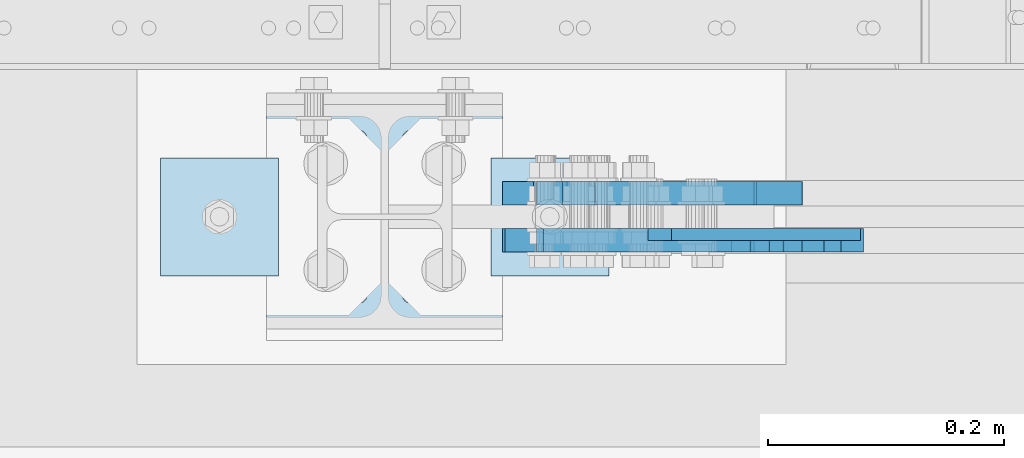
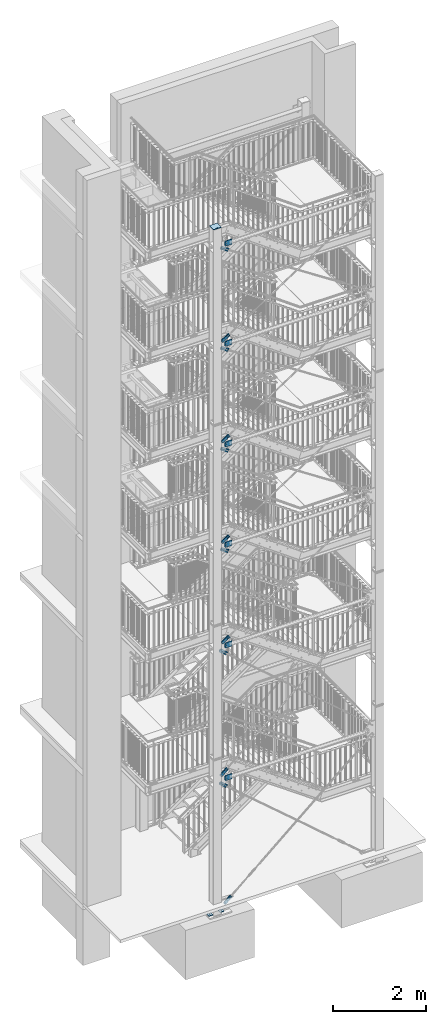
# One storey, part 148 of 817: 21 plates, 54 openings.
"""IFC2X3 building model written with IfcOpenShell, lengths in millimetres."""

import ifcopenshell
import ifcopenshell.guid

model = None  # the IFC model being written
_history = None  # IfcOwnerHistory: only IFC2X3 demands one
_inside = {}  # id of a spatial element -> (the spatial element, [elements in it])
_under = {}  # id of a project, library or spatial element -> (it, [spatial elements below it])
_declared = {}  # id of a project -> (the project, [libraries it declares])
_typed = {}  # id of a type object -> (the type object, [elements of that type])
_made_of = {}  # id of a material, layer set ... -> (it, [elements and type objects made of it])


def new_model(schema):
    """Start an empty IFC model of exactly this schema.

    Asked for "IFC4X3", IfcOpenShell would pick the latest addendum, in which some entities
    have other attributes; the version numbers below select the first issue.
    IFC2X3 requires an IfcOwnerHistory on every rooted entity: one is made here for all.
    """
    global model, _history
    if schema == "IFC4X3":
        model = ifcopenshell.file(schema_version=(4, 3, 0, 0))
    else:
        model = ifcopenshell.file(schema=schema)
    _inside.clear()
    _under.clear()
    _declared.clear()
    _typed.clear()
    _made_of.clear()
    _history = None
    if model.schema == "IFC2X3":
        org = make("IfcOrganization", Name="unknown")
        user = make(
            "IfcPersonAndOrganization",
            ThePerson=make("IfcPerson", FamilyName="unknown"),
            TheOrganization=org,
        )
        app = make(
            "IfcApplication",
            ApplicationDeveloper=org,
            Version="unknown",
            ApplicationFullName="unknown",
            ApplicationIdentifier="unknown",
        )
        _history = make(
            "IfcOwnerHistory",
            OwningUser=user,
            OwningApplication=app,
            ChangeAction="ADDED",
            CreationDate=0,
        )
    return model


def make(cls, **values):
    """One entity of the class cls with the attributes given. An attribute that is None is left unset."""
    return model.create_entity(
        cls, **{name: value for name, value in values.items() if value is not None}
    )


def entity(cls, *values):
    """Any entity or typed value of the class cls, its attributes in the order of the schema. None: left unset."""
    e = model.create_entity(cls)
    for i, value in enumerate(values):
        if value is not None:
            e[i] = value
    return e


def rooted(cls, **values):
    """An entity with a GlobalId (a new one), such as an element, a storey or a relation."""
    return make(cls, GlobalId=ifcopenshell.guid.new(), OwnerHistory=_history, **values)


def si_unit(unit_type, name, prefix=None):
    """IfcSIUnit, for example si_unit("LENGTHUNIT", "METRE", prefix="MILLI")."""
    return make("IfcSIUnit", UnitType=unit_type, Prefix=prefix, Name=name)


def converted_unit(unit_type, name, factor, base, dimensions=None, offset=None):
    """IfcConversionBasedUnit, such as the inch: factor (a typed value) times the base unit."""
    return make(
        "IfcConversionBasedUnit"
        if offset is None
        else "IfcConversionBasedUnitWithOffset",
        ConversionOffset=offset,
        Dimensions=None
        if dimensions is None
        else entity("IfcDimensionalExponents", *dimensions),
        UnitType=unit_type,
        Name=name,
        ConversionFactor=make(
            "IfcMeasureWithUnit", ValueComponent=factor, UnitComponent=base
        ),
    )


def assignment(units):
    """IfcUnitAssignment: the units of a project."""
    return None if units is None else make("IfcUnitAssignment", Units=units)


def point(xyz):
    """IfcCartesianPoint."""
    return None if xyz is None else make("IfcCartesianPoint", Coordinates=xyz)


def direction(xyz):
    """IfcDirection."""
    return None if xyz is None else make("IfcDirection", DirectionRatios=xyz)


def frame(location, z_axis=None, x_axis=None):
    """IfcAxis2Placement3D, a coordinate frame: its origin and axes. An axis left out is left unset."""
    return make(
        "IfcAxis2Placement3D",
        Location=point(location),
        Axis=direction(z_axis),
        RefDirection=direction(x_axis),
    )


def frame_2d(location, x_axis=None):
    """IfcAxis2Placement2D, a coordinate frame in the plane: its origin and x axis."""
    return make(
        "IfcAxis2Placement2D", Location=point(location), RefDirection=direction(x_axis)
    )


def origin():
    """The frame at (0, 0, 0) with its axes left unset."""
    return frame((0.0, 0.0, 0.0))


def origin_with_axes():
    """The frame at (0, 0, 0) with the z axis (0, 0, 1) and the x axis (1, 0, 0) written out."""
    return frame((0.0, 0.0, 0.0), z_axis=(0.0, 0.0, 1.0), x_axis=(1.0, 0.0, 0.0))


def origin_2d_with_axis():
    """The frame at (0, 0) in the plane with the x axis (1, 0) written out."""
    return frame_2d((0.0, 0.0), x_axis=(1.0, 0.0))


def place(relative_to, where):
    """IfcLocalPlacement: puts the frame where relative to a parent placement (None: the world)."""
    return make(
        "IfcLocalPlacement", PlacementRelTo=relative_to, RelativePlacement=where
    )


def context(
    kind, dimensions, precision=None, world=None, true_north=None, identifier=None
):
    """IfcGeometricRepresentationContext, for example the 3D "Model" context."""
    return make(
        "IfcGeometricRepresentationContext",
        ContextIdentifier=identifier,
        ContextType=kind,
        CoordinateSpaceDimension=dimensions,
        Precision=precision,
        WorldCoordinateSystem=world,
        TrueNorth=true_north,
    )


def project(units=None, contexts=None):
    """IfcProject with its units and contexts."""
    return rooted(
        "IfcProject",
        Name="project",
        RepresentationContexts=contexts,
        UnitsInContext=assignment(units),
    )


def spatial(cls, under=None, at=None, **own):
    """A site, building, storey or space (cls), placed at a placement, below another one or the project."""
    s = rooted(cls, ObjectPlacement=at, **own)
    if under is not None:
        _under.setdefault(under.id(), (under, []))[1].append(s)
    return s


def polyline(points):
    """IfcPolyline through the points."""
    return make("IfcPolyline", Points=[point(p) for p in points])


def profile(cls, at=None, kind="AREA", **sizes):
    """A parametric profile (cls). Its sizes go by their IFC names, for example OverallWidth=200.0."""
    return make(cls, ProfileType=kind, Position=at, **sizes)


def circle(**sizes):
    """IfcCircleProfileDef."""
    return profile("IfcCircleProfileDef", **sizes)


def outline(outer, holes=None, kind="AREA"):
    """IfcArbitraryClosedProfileDef: a profile drawn as a closed curve; with holes, ...WithVoids."""
    if holes is None:
        return make("IfcArbitraryClosedProfileDef", ProfileType=kind, OuterCurve=outer)
    return make(
        "IfcArbitraryProfileDefWithVoids",
        ProfileType=kind,
        OuterCurve=outer,
        InnerCurves=holes,
    )


def extrude(swept, where, along, depth):
    """IfcExtrudedAreaSolid: the profile swept, set in the frame where, extruded along a direction by depth."""
    return make(
        "IfcExtrudedAreaSolid",
        SweptArea=swept,
        Position=where,
        ExtrudedDirection=direction(along),
        Depth=depth,
    )


def shape(context_of_items, identifier, shape_type, items):
    """IfcShapeRepresentation: the items that make up one representation, for example the "Body"."""
    return make(
        "IfcShapeRepresentation",
        ContextOfItems=context_of_items,
        RepresentationIdentifier=identifier,
        RepresentationType=shape_type,
        Items=items,
    )


def material(Name=None, Category=None):
    """IfcMaterial."""
    return make("IfcMaterial", Name=Name, Category=Category)


def layer(
    of_material, thickness, ventilated=None, Name=None, Category=None, Priority=None
):
    """IfcMaterialLayer: one layer of a wall or slab, of a material (None: an air gap)."""
    return make(
        "IfcMaterialLayer",
        Material=of_material,
        LayerThickness=thickness,
        IsVentilated=ventilated,
        Name=Name,
        Category=Category,
        Priority=Priority,
    )


def layer_set(layers, Name=None):
    """IfcMaterialLayerSet."""
    return make("IfcMaterialLayerSet", MaterialLayers=layers, LayerSetName=Name)


def made_of(thing, what):
    """Note that an element or type object is made of a material, layer set ...; save() writes the relation."""
    if what is not None:
        _made_of.setdefault(what.id(), (what, []))[1].append(thing)
    return thing


def element(
    cls,
    number,
    at=None,
    inside=None,
    cuts=None,
    type_object=None,
    material=None,
    context=None,
    identifier="Body",
    shape_type=None,
    held_by="IfcProductDefinitionShape",
    body=None,
    shapes=None,
    **own,
):
    """One element of the class cls, such as IfcWall. Its Tag is "e" and its number.

    at: its placement. inside: the storey or other place that contains it. cuts: it is an
    opening in that element (IfcRelVoidsElement). A single representation is given by context,
    identifier, shape_type and body (its items); several are given by shapes. held_by: the class
    of the entity that holds the representations. save() writes the other relations.
    """
    e = rooted(cls, Tag="e%d" % number, ObjectPlacement=at, **own)
    if body is not None:
        shapes = [shape(context, identifier, shape_type, body)]
    if shapes is not None:
        e.Representation = make(held_by, Representations=shapes)
    if inside is not None:
        _inside.setdefault(inside.id(), (inside, []))[1].append(e)
    if cuts is not None:
        rooted(
            "IfcRelVoidsElement", RelatingBuildingElement=cuts, RelatedOpeningElement=e
        )
    if type_object is not None:
        _typed.setdefault(type_object.id(), (type_object, []))[1].append(e)
    return made_of(e, material)


def aggregate(whole, parts):
    """IfcRelAggregates: a whole, such as a stair, and the parts it consists of."""
    return rooted("IfcRelAggregates", RelatingObject=whole, RelatedObjects=parts)


def save(model, path):
    """Write the relations noted so far, then the file.

    IfcRelAggregates (storeys below a building ...), IfcRelContainedInSpatialStructure (elements
    in a storey), IfcRelDefinesByType, IfcRelAssociatesMaterial and IfcRelDeclares: one each for
    every whole, place, type object, material and project.
    """
    for whole, parts in _under.values():
        aggregate(whole, parts)
    for where, things in _inside.values():
        rooted(
            "IfcRelContainedInSpatialStructure",
            RelatedElements=things,
            RelatingStructure=where,
        )
    for kind, things in _typed.values():
        rooted("IfcRelDefinesByType", RelatedObjects=things, RelatingType=kind)
    for what, things in _made_of.values():
        rooted("IfcRelAssociatesMaterial", RelatedObjects=things, RelatingMaterial=what)
    for by, libraries in _declared.values():
        rooted("IfcRelDeclares", RelatingContext=by, RelatedDefinitions=libraries)
    model.write(path)


model = new_model("IFC2X3")

# Units and contexts
model_context = context("Model", 3, precision=1e-09, world=origin_with_axes())
ifc_project = project(units=[si_unit("LENGTHUNIT", "METRE", prefix="MILLI"), si_unit("AREAUNIT", "SQUARE_METRE"), si_unit("VOLUMEUNIT", "CUBIC_METRE"), converted_unit("PLANEANGLEUNIT", "DEGREE", entity("IfcPlaneAngleMeasure", 0.01745329), si_unit("PLANEANGLEUNIT", "RADIAN"), dimensions=[0, 0, 0, 0, 0, 0, 0])], contexts=[model_context])

# Site, building, storey
site_placement = place(None, origin_with_axes())
site = spatial("IfcSite", under=ifc_project, at=site_placement, Name="Cnopf'sche Kinderklinik", CompositionType="ELEMENT")
building_placement = place(site_placement, origin_with_axes())
building = spatial("IfcBuilding", under=site, at=building_placement, Name="Struktur 1", CompositionType="ELEMENT")
storey_placement = place(building_placement, origin_with_axes())
storey = spatial("IfcBuildingStorey", under=building, at=storey_placement, Name="Default Storey", CompositionType="ELEMENT", Elevation=0.0)

# Plate, opening
ifc_material = material(Name="S235JR")
ifc_layer_1 = layer(ifc_material, 12.0)
ifc_layer_set_1 = layer_set([ifc_layer_1], Name="S235JR")
plate_1_placement = place(None, frame((4716.713402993, 4366.736971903, 60.0), z_axis=(0.0, 0.0, 1.0), x_axis=(1.0, 0.0, 0.0)))
plate_1 = element("IfcPlate", 1, at=plate_1_placement, inside=storey, material=ifc_layer_set_1, Name="-", ObjectType="-", context=model_context, shape_type="SweptSolid", body=[
    extrude(outline(polyline([(-50.0, -50.0), (50.0, -50.0), (50.0, 50.0), (-50.0, 50.0), (-50.0, -50.0)])), origin_with_axes(), (0.0, 0.0, 1.0), 12.0),
])
opening_1_placement = place(plate_1_placement, frame((1e-09, 1e-09, -0.5), z_axis=(0.0, 0.0, 1.0), x_axis=(1.0, 0.0, 0.0)))
element("IfcOpeningElement", 2, at=opening_1_placement, cuts=plate_1, ObjectType="Opening", context=model_context, shape_type="SweptSolid", body=[
    extrude(circle(Radius=9.001, at=origin_2d_with_axis()), origin(), (0.0, 0.0, 1.0), 13.0),
])

plate_2_placement = place(None, frame((4996.713402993, 4366.736971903, 60.0), z_axis=(0.0, 0.0, 1.0), x_axis=(1.0, 0.0, 0.0)))
plate_2 = element("IfcPlate", 3, at=plate_2_placement, inside=storey, material=ifc_layer_set_1, Name="-", ObjectType="-", context=model_context, shape_type="SweptSolid", body=[
    extrude(outline(polyline([(-50.0, -50.0), (50.0, -50.0), (50.0, 50.0), (-50.0, 50.0), (-50.0, -50.0)])), origin_with_axes(), (0.0, 0.0, 1.0), 12.0),
])
opening_2_placement = place(plate_2_placement, frame((1e-09, 1e-09, -0.5), z_axis=(0.0, 0.0, 1.0), x_axis=(1.0, 0.0, 0.0)))
element("IfcOpeningElement", 4, at=opening_2_placement, cuts=plate_2, ObjectType="Opening", context=model_context, shape_type="SweptSolid", body=[
    extrude(circle(Radius=9.001, at=origin_2d_with_axis()), origin(), (0.0, 0.0, 1.0), 13.0),
])

# Plate, openings
ifc_layer_2 = layer(ifc_material, 10.0)
ifc_layer_set_2 = layer_set([ifc_layer_2], Name="S235JR")
plate_3_placement = place(None, frame((4856.713402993, 4366.736971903, 18013.999999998), z_axis=(0.0, 0.0, 1.0), x_axis=(1.0, 0.0, 0.0)))
plate_3 = element("IfcPlate", 5, at=plate_3_placement, inside=storey, material=ifc_layer_set_2, Name="-", ObjectType="-", context=model_context, shape_type="SweptSolid", body=[
    extrude(outline(polyline([(-100.0, -90.0), (100.0, -90.0), (100.0, 90.0), (-100.0, 90.0), (-100.0, -90.0)])), origin_with_axes(), (0.0, 0.0, 1.0), 10.0),
])
opening_3_placement = place(plate_3_placement, frame((21.25, 67.0, 10.5), z_axis=(0.0, 0.0, -1.0), x_axis=(0.0, 1.0, 0.0)))
element("IfcOpeningElement", 6, at=opening_3_placement, cuts=plate_3, ObjectType="Opening", context=model_context, shape_type="SweptSolid", body=[
    extrude(circle(Radius=6.001, at=origin_2d_with_axis()), origin(), (0.0, 0.0, 1.0), 11.0),
])
opening_4_placement = place(plate_3_placement, frame((21.25, -67.0, 10.5), z_axis=(0.0, 0.0, -1.0), x_axis=(0.0, 1.0, 0.0)))
element("IfcOpeningElement", 7, at=opening_4_placement, cuts=plate_3, ObjectType="Opening", context=model_context, shape_type="SweptSolid", body=[
    extrude(circle(Radius=6.001, at=origin_2d_with_axis()), origin(), (0.0, 0.0, 1.0), 11.0),
])
opening_5_placement = place(plate_3_placement, frame((-21.25, -67.0, 10.5), z_axis=(0.0, 0.0, -1.0), x_axis=(0.0, 1.0, 0.0)))
element("IfcOpeningElement", 8, at=opening_5_placement, cuts=plate_3, ObjectType="Opening", context=model_context, shape_type="SweptSolid", body=[
    extrude(circle(Radius=6.001, at=origin_2d_with_axis()), origin(), (0.0, 0.0, 1.0), 11.0),
])
opening_6_placement = place(plate_3_placement, frame((-21.25, 67.0, 10.5), z_axis=(0.0, 0.0, -1.0), x_axis=(0.0, 1.0, 0.0)))
element("IfcOpeningElement", 9, at=opening_6_placement, cuts=plate_3, ObjectType="Opening", context=model_context, shape_type="SweptSolid", body=[
    extrude(circle(Radius=6.001, at=origin_2d_with_axis()), origin(), (0.0, 0.0, 1.0), 11.0),
])

ifc_layer_3 = layer(ifc_material, 20.0)
ifc_layer_set_3 = layer_set([ifc_layer_3], Name="S235JR")
plate_4_placement = place(None, frame((5229.229944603, 4356.736971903, 395.19448655), z_axis=(0.0, -1.0, 0.0), x_axis=(-0.652408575, 0.0, 0.757867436)))
plate_4 = element("IfcPlate", 10, at=plate_4_placement, inside=storey, material=ifc_layer_set_3, Name="-", ObjectType="-", context=model_context, shape_type="SweptSolid", body=[
    extrude(outline(polyline([(0.0, 0.0), (29.0, 0.0), (29.0, 210.0), (9.0, 230.0), (-31.0, 230.0), (-51.0, 210.0), (-51.0, 0.0), (-22.0, 0.0), (-22.0, 80.0), (0.0, 80.0), (0.0, 0.0)])), origin_with_axes(), (0.0, 0.0, 1.0), 20.0),
])
opening_7_placement = place(plate_4_placement, frame((-11.0, 170.0, -0.5), z_axis=(0.0, 0.0, 1.0), x_axis=(0.0, -1.0, 0.0)))
element("IfcOpeningElement", 11, at=opening_7_placement, cuts=plate_4, ObjectType="Opening", context=model_context, shape_type="SweptSolid", body=[
    extrude(circle(Radius=9.001, at=frame_2d((30.0, 0.0), x_axis=(1.0, 0.0))), origin(), (0.0, 0.0, 1.0), 21.0),
])
opening_8_placement = place(plate_4_placement, frame((-11.0, 170.0, -0.5), z_axis=(0.0, 0.0, 1.0), x_axis=(0.0, -1.0, 0.0)))
element("IfcOpeningElement", 12, at=opening_8_placement, cuts=plate_4, ObjectType="Opening", context=model_context, shape_type="SweptSolid", body=[
    extrude(circle(Radius=9.001, at=frame_2d((-30.0, 0.0), x_axis=(1.0, 0.0))), origin(), (0.0, 0.0, 1.0), 21.0),
])

plate_5_placement = place(None, frame((5182.473395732, 4356.736971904, 7211.973311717), z_axis=(0.0, -1.0, 0.0), x_axis=(-0.548720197, 0.0, 0.836006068)))
plate_5 = element("IfcPlate", 13, at=plate_5_placement, inside=storey, material=ifc_layer_set_3, Name="-", ObjectType="-", context=model_context, shape_type="SweptSolid", body=[
    extrude(outline(polyline([(0.0, 0.0), (29.0, 0.0), (29.0, 210.0), (9.0, 230.0), (-31.0, 230.0), (-51.0, 210.0), (-51.0, 0.0), (-22.0, 0.0), (-22.0, 80.0), (0.0, 80.0), (0.0, 0.0)])), origin_with_axes(), (0.0, 0.0, 1.0), 20.0),
])
opening_9_placement = place(plate_5_placement, frame((-11.0, 170.0, -0.5), z_axis=(0.0, 0.0, 1.0), x_axis=(0.0, -1.0, 0.0)))
element("IfcOpeningElement", 14, at=opening_9_placement, cuts=plate_5, ObjectType="Opening", context=model_context, shape_type="SweptSolid", body=[
    extrude(circle(Radius=9.001, at=frame_2d((30.0, 0.0), x_axis=(1.0, 0.0))), origin(), (0.0, 0.0, 1.0), 21.0),
])
opening_10_placement = place(plate_5_placement, frame((-11.0, 170.0, -0.5), z_axis=(0.0, 0.0, 1.0), x_axis=(0.0, -1.0, 0.0)))
element("IfcOpeningElement", 15, at=opening_10_placement, cuts=plate_5, ObjectType="Opening", context=model_context, shape_type="SweptSolid", body=[
    extrude(circle(Radius=9.001, at=frame_2d((-30.0, 0.0), x_axis=(1.0, 0.0))), origin(), (0.0, 0.0, 1.0), 21.0),
])

plate_6_placement = place(None, frame((5136.237715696, 4356.736971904, 3768.643811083), z_axis=(0.0, -1.0, 0.0), x_axis=(-0.654679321, 0.0, 0.755906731)))
plate_6 = element("IfcPlate", 16, at=plate_6_placement, inside=storey, material=ifc_layer_set_3, Name="-", ObjectType="-", context=model_context, shape_type="SweptSolid", body=[
    extrude(outline(polyline([(0.0, 0.0), (29.0, 0.0), (29.0, 210.0), (9.0, 230.0), (-31.0, 230.0), (-51.0, 210.0), (-51.0, 0.0), (-22.0, 0.0), (-22.0, 80.0), (0.0, 80.0), (0.0, 0.0)])), origin_with_axes(), (0.0, 0.0, 1.0), 20.0),
])
opening_11_placement = place(plate_6_placement, frame((-11.0, 170.0, -0.5), z_axis=(0.0, 0.0, 1.0), x_axis=(0.0, -1.0, 0.0)))
element("IfcOpeningElement", 17, at=opening_11_placement, cuts=plate_6, ObjectType="Opening", context=model_context, shape_type="SweptSolid", body=[
    extrude(circle(Radius=9.001, at=frame_2d((30.0, 0.0), x_axis=(1.0, 0.0))), origin(), (0.0, 0.0, 1.0), 21.0),
])
opening_12_placement = place(plate_6_placement, frame((-11.0, 170.0, -0.5), z_axis=(0.0, 0.0, 1.0), x_axis=(0.0, -1.0, 0.0)))
element("IfcOpeningElement", 18, at=opening_12_placement, cuts=plate_6, ObjectType="Opening", context=model_context, shape_type="SweptSolid", body=[
    extrude(circle(Radius=9.001, at=frame_2d((-30.0, 0.0), x_axis=(1.0, 0.0))), origin(), (0.0, 0.0, 1.0), 21.0),
])

plate_7_placement = place(None, frame((5138.483538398, 4396.736971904, 3254.92436087), z_axis=(0.0, 1.0, 0.0), x_axis=(-0.652408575, 0.0, -0.757867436)))
plate_7 = element("IfcPlate", 19, at=plate_7_placement, inside=storey, material=ifc_layer_set_3, Name="-", ObjectType="-", context=model_context, shape_type="SweptSolid", body=[
    extrude(outline(polyline([(0.0, 0.0), (29.0, 0.0), (29.0, 210.0), (9.0, 230.0), (-31.0, 230.0), (-51.0, 210.0), (-51.0, 0.0), (-22.0, 0.0), (-22.0, 80.0), (0.0, 80.0), (0.0, 0.0)])), origin_with_axes(), (0.0, 0.0, -1.0), 20.0),
])
opening_13_placement = place(plate_7_placement, frame((-11.0, 149.001, 0.5), z_axis=(0.0, 0.0, 1.0), x_axis=(1.0, 0.0, 0.0)))
element("IfcOpeningElement", 20, at=opening_13_placement, cuts=plate_7, ObjectType="Opening", context=model_context, shape_type="SweptSolid", body=[
    extrude(circle(Radius=9.001, at=frame_2d((0.0, -9.001), x_axis=(1.0, 0.0))), origin(), (0.0, 0.0, -1.0), 21.0),
])
opening_14_placement = place(plate_7_placement, frame((-11.000000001, 209.001, 0.5), z_axis=(0.0, 0.0, 1.0), x_axis=(1.0, 0.0, 0.0)))
element("IfcOpeningElement", 21, at=opening_14_placement, cuts=plate_7, ObjectType="Opening", context=model_context, shape_type="SweptSolid", body=[
    extrude(circle(Radius=9.001, at=frame_2d((0.0, -9.001), x_axis=(1.0, 0.0))), origin(), (0.0, 0.0, -1.0), 21.0),
])

plate_8_placement = place(None, frame((5136.378489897, 4396.736971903, 6728.234258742), z_axis=(0.0, 1.0, 0.0), x_axis=(-0.654679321, 0.0, -0.755906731)))
plate_8 = element("IfcPlate", 22, at=plate_8_placement, inside=storey, material=ifc_layer_set_3, Name="-", ObjectType="-", context=model_context, shape_type="SweptSolid", body=[
    extrude(outline(polyline([(0.0, 0.0), (29.0, 0.0), (29.0, 210.0), (9.0, 230.0), (-31.0, 230.0), (-51.0, 210.0), (-51.0, 0.0), (-22.0, 0.0), (-22.0, 80.0), (0.0, 80.0), (0.0, 0.0)])), origin_with_axes(), (0.0, 0.0, -1.0), 20.0),
])
opening_15_placement = place(plate_8_placement, frame((-11.0, 149.001, 0.5), z_axis=(0.0, 0.0, 1.0), x_axis=(1.0, 0.0, 0.0)))
element("IfcOpeningElement", 23, at=opening_15_placement, cuts=plate_8, ObjectType="Opening", context=model_context, shape_type="SweptSolid", body=[
    extrude(circle(Radius=9.001, at=frame_2d((0.0, -9.001), x_axis=(1.0, 0.0))), origin(), (0.0, 0.0, -1.0), 21.0),
])
opening_16_placement = place(plate_8_placement, frame((-11.0, 209.001, 0.5), z_axis=(0.0, 0.0, 1.0), x_axis=(1.0, 0.0, 0.0)))
element("IfcOpeningElement", 24, at=opening_16_placement, cuts=plate_8, ObjectType="Opening", context=model_context, shape_type="SweptSolid", body=[
    extrude(circle(Radius=9.001, at=frame_2d((0.0, -9.001), x_axis=(1.0, 0.0))), origin(), (0.0, 0.0, -1.0), 21.0),
])

plate_9_placement = place(None, frame((5182.60391541, 4396.736971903, 9389.94099275), z_axis=(0.0, 1.0, 0.0), x_axis=(-0.548720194, 0.0, -0.83600607)))
plate_9 = element("IfcPlate", 25, at=plate_9_placement, inside=storey, material=ifc_layer_set_3, Name="-", ObjectType="-", context=model_context, shape_type="SweptSolid", body=[
    extrude(outline(polyline([(0.0, 0.0), (29.0, 0.0), (29.0, 210.0), (9.0, 230.0), (-31.0, 230.0), (-51.0, 210.0), (-51.0, 0.0), (-22.0, 0.0), (-22.0, 80.0), (0.0, 80.0), (0.0, 0.0)])), origin_with_axes(), (0.0, 0.0, -1.0), 20.0),
])
opening_17_placement = place(plate_9_placement, frame((-11.0, 149.001, 0.5), z_axis=(0.0, 0.0, 1.0), x_axis=(1.0, 0.0, 0.0)))
element("IfcOpeningElement", 26, at=opening_17_placement, cuts=plate_9, ObjectType="Opening", context=model_context, shape_type="SweptSolid", body=[
    extrude(circle(Radius=9.001, at=frame_2d((0.0, -9.001), x_axis=(1.0, 0.0))), origin(), (0.0, 0.0, -1.0), 21.0),
])
opening_18_placement = place(plate_9_placement, frame((-11.0, 209.001, 0.5), z_axis=(0.0, 0.0, 1.0), x_axis=(1.0, 0.0, 0.0)))
element("IfcOpeningElement", 27, at=opening_18_placement, cuts=plate_9, ObjectType="Opening", context=model_context, shape_type="SweptSolid", body=[
    extrude(circle(Radius=9.001, at=frame_2d((0.0, -9.001), x_axis=(1.0, 0.0))), origin(), (0.0, 0.0, -1.0), 21.0),
])

plate_10_placement = place(None, frame((5182.803007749, 4396.736971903, 12017.227496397), z_axis=(0.0, 1.0, 0.0), x_axis=(-0.547980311, 0.0, -0.83649123)))
plate_10 = element("IfcPlate", 28, at=plate_10_placement, inside=storey, material=ifc_layer_set_3, Name="-", ObjectType="-", context=model_context, shape_type="SweptSolid", body=[
    extrude(outline(polyline([(0.0, 0.0), (29.0, 0.0), (29.0, 210.0), (9.0, 230.0), (-31.0, 230.0), (-51.0, 210.0), (-51.0, 0.0), (-22.0, 0.0), (-22.0, 80.0), (0.0, 80.0), (0.0, 0.0)])), origin_with_axes(), (0.0, 0.0, -1.0), 20.0),
])
opening_19_placement = place(plate_10_placement, frame((-11.0, 149.001, 0.5), z_axis=(0.0, 0.0, 1.0), x_axis=(1.0, 0.0, 0.0)))
element("IfcOpeningElement", 29, at=opening_19_placement, cuts=plate_10, ObjectType="Opening", context=model_context, shape_type="SweptSolid", body=[
    extrude(circle(Radius=9.001, at=frame_2d((0.0, -9.001), x_axis=(1.0, 0.0))), origin(), (0.0, 0.0, -1.0), 21.0),
])
opening_20_placement = place(plate_10_placement, frame((-11.0, 209.001, 0.5), z_axis=(0.0, 0.0, 1.0), x_axis=(1.0, 0.0, 0.0)))
element("IfcOpeningElement", 30, at=opening_20_placement, cuts=plate_10, ObjectType="Opening", context=model_context, shape_type="SweptSolid", body=[
    extrude(circle(Radius=9.001, at=frame_2d((0.0, -9.001), x_axis=(1.0, 0.0))), origin(), (0.0, 0.0, -1.0), 21.0),
])

plate_11_placement = place(None, frame((5182.671058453, 4356.736971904, 9843.689085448), z_axis=(0.0, -1.0, 0.0), x_axis=(-0.547991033, 0.0, 0.836484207)))
plate_11 = element("IfcPlate", 31, at=plate_11_placement, inside=storey, material=ifc_layer_set_3, Name="-", ObjectType="-", context=model_context, shape_type="SweptSolid", body=[
    extrude(outline(polyline([(0.0, 0.0), (29.0, 0.0), (29.0, 210.0), (9.0, 230.0), (-31.0, 230.0), (-51.0, 210.0), (-51.0, 0.0), (-22.0, 0.0), (-22.0, 80.0), (0.0, 80.0), (0.0, 0.0)])), origin_with_axes(), (0.0, 0.0, 1.0), 20.0),
])
opening_21_placement = place(plate_11_placement, frame((-11.0, 170.0, -0.5), z_axis=(0.0, 0.0, 1.0), x_axis=(0.0, -1.0, 0.0)))
element("IfcOpeningElement", 32, at=opening_21_placement, cuts=plate_11, ObjectType="Opening", context=model_context, shape_type="SweptSolid", body=[
    extrude(circle(Radius=9.001, at=frame_2d((30.0, 0.0), x_axis=(1.0, 0.0))), origin(), (0.0, 0.0, 1.0), 21.0),
])
opening_22_placement = place(plate_11_placement, frame((-11.0, 170.0, -0.5), z_axis=(0.0, 0.0, 1.0), x_axis=(0.0, -1.0, 0.0)))
element("IfcOpeningElement", 33, at=opening_22_placement, cuts=plate_11, ObjectType="Opening", context=model_context, shape_type="SweptSolid", body=[
    extrude(circle(Radius=9.001, at=frame_2d((-30.0, 0.0), x_axis=(1.0, 0.0))), origin(), (0.0, 0.0, 1.0), 21.0),
])

plate_12_placement = place(None, frame((5182.485458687, 4396.736971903, 14651.77050571), z_axis=(0.0, 1.0, 0.0), x_axis=(-0.549157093, 0.0, -0.835719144)))
plate_12 = element("IfcPlate", 34, at=plate_12_placement, inside=storey, material=ifc_layer_set_3, Name="-", ObjectType="-", context=model_context, shape_type="SweptSolid", body=[
    extrude(outline(polyline([(0.0, 0.0), (29.0, 0.0), (29.0, 210.0), (9.0, 230.0), (-31.0, 230.0), (-51.0, 210.0), (-51.0, 0.0), (-22.0, 0.0), (-22.0, 80.0), (0.0, 80.0), (0.0, 0.0)])), origin_with_axes(), (0.0, 0.0, -1.0), 20.0),
])
opening_23_placement = place(plate_12_placement, frame((-11.0, 149.001, 0.5), z_axis=(0.0, 0.0, 1.0), x_axis=(1.0, 0.0, 0.0)))
element("IfcOpeningElement", 35, at=opening_23_placement, cuts=plate_12, ObjectType="Opening", context=model_context, shape_type="SweptSolid", body=[
    extrude(circle(Radius=9.001, at=frame_2d((0.0, -9.001), x_axis=(1.0, 0.0))), origin(), (0.0, 0.0, -1.0), 21.0),
])
opening_24_placement = place(plate_12_placement, frame((-11.0, 209.001, 0.5), z_axis=(0.0, 0.0, 1.0), x_axis=(1.0, 0.0, 0.0)))
element("IfcOpeningElement", 36, at=opening_24_placement, cuts=plate_12, ObjectType="Opening", context=model_context, shape_type="SweptSolid", body=[
    extrude(circle(Radius=9.001, at=frame_2d((0.0, -9.001), x_axis=(1.0, 0.0))), origin(), (0.0, 0.0, -1.0), 21.0),
])

plate_13_placement = place(None, frame((5182.354864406, 4356.736971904, 12471.143686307), z_axis=(0.0, -1.0, 0.0), x_axis=(-0.549157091, 0.0, 0.835719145)))
plate_13 = element("IfcPlate", 37, at=plate_13_placement, inside=storey, material=ifc_layer_set_3, Name="-", ObjectType="-", context=model_context, shape_type="SweptSolid", body=[
    extrude(outline(polyline([(0.0, 0.0), (29.0, 0.0), (29.0, 210.0), (9.0, 230.0), (-31.0, 230.0), (-51.0, 210.0), (-51.0, 0.0), (-22.0, 0.0), (-22.0, 80.0), (0.0, 80.0), (0.0, 0.0)])), origin_with_axes(), (0.0, 0.0, 1.0), 20.0),
])
opening_25_placement = place(plate_13_placement, frame((-11.0, 170.0, -0.5), z_axis=(0.0, 0.0, 1.0), x_axis=(0.0, -1.0, 0.0)))
element("IfcOpeningElement", 38, at=opening_25_placement, cuts=plate_13, ObjectType="Opening", context=model_context, shape_type="SweptSolid", body=[
    extrude(circle(Radius=9.001, at=frame_2d((30.0, 0.0), x_axis=(1.0, 0.0))), origin(), (0.0, 0.0, 1.0), 21.0),
])
opening_26_placement = place(plate_13_placement, frame((-11.0, 170.0, -0.5), z_axis=(0.0, 0.0, 1.0), x_axis=(0.0, -1.0, 0.0)))
element("IfcOpeningElement", 39, at=opening_26_placement, cuts=plate_13, ObjectType="Opening", context=model_context, shape_type="SweptSolid", body=[
    extrude(circle(Radius=9.001, at=frame_2d((-30.0, 0.0), x_axis=(1.0, 0.0))), origin(), (0.0, 0.0, 1.0), 21.0),
])

plate_14_placement = place(None, frame((5183.078330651, 4396.736971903, 17272.624292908), z_axis=(0.0, 1.0, 0.0), x_axis=(-0.546968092, 0.0, -0.837153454)))
plate_14 = element("IfcPlate", 40, at=plate_14_placement, inside=storey, material=ifc_layer_set_3, Name="-", ObjectType="-", context=model_context, shape_type="SweptSolid", body=[
    extrude(outline(polyline([(0.0, 0.0), (29.0, 0.0), (29.0, 210.0), (9.0, 230.0), (-31.0, 230.0), (-51.0, 210.0), (-51.0, 0.0), (-22.0, 0.0), (-22.0, 80.0), (0.0, 80.0), (0.0, 0.0)])), origin_with_axes(), (0.0, 0.0, -1.0), 20.0),
])
opening_27_placement = place(plate_14_placement, frame((-11.0, 149.001, 0.5), z_axis=(0.0, 0.0, 1.0), x_axis=(1.0, 0.0, 0.0)))
element("IfcOpeningElement", 41, at=opening_27_placement, cuts=plate_14, ObjectType="Opening", context=model_context, shape_type="SweptSolid", body=[
    extrude(circle(Radius=9.001, at=frame_2d((0.0, -9.001), x_axis=(1.0, 0.0))), origin(), (0.0, 0.0, -1.0), 21.0),
])
opening_28_placement = place(plate_14_placement, frame((-11.0, 209.001, 0.5), z_axis=(0.0, 0.0, 1.0), x_axis=(1.0, 0.0, 0.0)))
element("IfcOpeningElement", 42, at=opening_28_placement, cuts=plate_14, ObjectType="Opening", context=model_context, shape_type="SweptSolid", body=[
    extrude(circle(Radius=9.001, at=frame_2d((0.0, -9.001), x_axis=(1.0, 0.0))), origin(), (0.0, 0.0, -1.0), 21.0),
])

plate_15_placement = place(None, frame((5182.948039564, 4356.736971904, 15105.290571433), z_axis=(0.0, -1.0, 0.0), x_axis=(-0.546968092, 0.0, 0.837153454)))
plate_15 = element("IfcPlate", 43, at=plate_15_placement, inside=storey, material=ifc_layer_set_3, Name="-", ObjectType="-", context=model_context, shape_type="SweptSolid", body=[
    extrude(outline(polyline([(0.0, 0.0), (29.0, 0.0), (29.0, 210.0), (9.0, 230.0), (-31.0, 230.0), (-51.0, 210.0), (-51.0, 0.0), (-22.0, 0.0), (-22.0, 80.0), (0.0, 80.0), (0.0, 0.0)])), origin_with_axes(), (0.0, 0.0, 1.0), 20.0),
])
opening_29_placement = place(plate_15_placement, frame((-11.0, 170.0, -0.5), z_axis=(0.0, 0.0, 1.0), x_axis=(0.0, -1.0, 0.0)))
element("IfcOpeningElement", 44, at=opening_29_placement, cuts=plate_15, ObjectType="Opening", context=model_context, shape_type="SweptSolid", body=[
    extrude(circle(Radius=9.001, at=frame_2d((30.0, 0.0), x_axis=(1.0, 0.0))), origin(), (0.0, 0.0, 1.0), 21.0),
])
opening_30_placement = place(plate_15_placement, frame((-11.0, 170.0, -0.5), z_axis=(0.0, 0.0, 1.0), x_axis=(0.0, -1.0, 0.0)))
element("IfcOpeningElement", 45, at=opening_30_placement, cuts=plate_15, ObjectType="Opening", context=model_context, shape_type="SweptSolid", body=[
    extrude(circle(Radius=9.001, at=frame_2d((-30.0, 0.0), x_axis=(1.0, 0.0))), origin(), (0.0, 0.0, 1.0), 21.0),
])

plate_16_placement = place(None, frame((5169.963401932, 4356.736971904, 6984.999996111), z_axis=(0.0, 1.0, 0.0), x_axis=(-1.0, 0.0, 0.0)))
plate_16 = element("IfcPlate", 46, at=plate_16_placement, inside=storey, material=ifc_layer_set_2, Name="-", ObjectType="-", context=model_context, shape_type="SweptSolid", body=[
    extrude(outline(polyline([(-90.0, -70.0), (90.0, -70.0), (90.0, 70.0), (-90.0, 70.0), (-90.0, -70.0)])), origin_with_axes(), (0.0, 0.0, -1.0), 10.0),
])
opening_31_placement = place(plate_16_placement, frame((90.0, -70.0, 0.01), z_axis=(0.0, 0.0, 1.0), x_axis=(0.0, 1.0, 0.0)))
element("IfcOpeningElement", 47, at=opening_31_placement, cuts=plate_16, ObjectType="Opening", context=model_context, shape_type="SweptSolid", body=[
    extrude(outline(polyline([(0.0, 0.0), (20.0, 0.0), (0.0, 20.0), (0.0, 0.0)])), origin(), (0.0, 0.0, -1.0), 10.02),
])
opening_32_placement = place(plate_16_placement, frame((90.0, 70.0, 0.01), z_axis=(0.0, 0.0, 1.0), x_axis=(-1.0, 0.0, 0.0)))
element("IfcOpeningElement", 48, at=opening_32_placement, cuts=plate_16, ObjectType="Opening", context=model_context, shape_type="SweptSolid", body=[
    extrude(outline(polyline([(0.0, 0.0), (20.0, 0.0), (0.0, 20.0), (0.0, 0.0)])), origin(), (0.0, 0.0, -1.0), 10.02),
])
opening_33_placement = place(plate_16_placement, frame((40.999, 30.0, 0.5), z_axis=(0.0, 0.0, 1.0), x_axis=(1.0, 0.0, 0.0)))
element("IfcOpeningElement", 49, at=opening_33_placement, cuts=plate_16, ObjectType="Opening", context=model_context, shape_type="SweptSolid", body=[
    extrude(circle(Radius=9.001, at=frame_2d((9.001, 0.0), x_axis=(1.0, 0.0))), origin(), (0.0, 0.0, -1.0), 11.0),
])
opening_34_placement = place(plate_16_placement, frame((40.999, -30.0, 0.5), z_axis=(0.0, 0.0, 1.0), x_axis=(1.0, 0.0, 0.0)))
element("IfcOpeningElement", 50, at=opening_34_placement, cuts=plate_16, ObjectType="Opening", context=model_context, shape_type="SweptSolid", body=[
    extrude(circle(Radius=9.001, at=frame_2d((9.001, 0.0), x_axis=(1.0, 0.0))), origin(), (0.0, 0.0, -1.0), 11.0),
])

plate_17_placement = place(None, frame((5169.963401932, 4356.736971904, 3511.999996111), z_axis=(0.0, 1.0, 0.0), x_axis=(-1.0, 0.0, 0.0)))
plate_17 = element("IfcPlate", 51, at=plate_17_placement, inside=storey, material=ifc_layer_set_2, Name="-", ObjectType="-", context=model_context, shape_type="SweptSolid", body=[
    extrude(outline(polyline([(-90.0, -70.0), (90.0, -70.0), (90.0, 70.0), (-90.0, 70.0), (-90.0, -70.0)])), origin_with_axes(), (0.0, 0.0, -1.0), 10.0),
])
opening_35_placement = place(plate_17_placement, frame((90.0, -70.0, 0.01), z_axis=(0.0, 0.0, 1.0), x_axis=(0.0, 1.0, 0.0)))
element("IfcOpeningElement", 52, at=opening_35_placement, cuts=plate_17, ObjectType="Opening", context=model_context, shape_type="SweptSolid", body=[
    extrude(outline(polyline([(0.0, 0.0), (20.0, 0.0), (0.0, 20.0), (0.0, 0.0)])), origin(), (0.0, 0.0, -1.0), 10.02),
])
opening_36_placement = place(plate_17_placement, frame((90.0, 70.0, 0.01), z_axis=(0.0, 0.0, 1.0), x_axis=(-1.0, 0.0, 0.0)))
element("IfcOpeningElement", 53, at=opening_36_placement, cuts=plate_17, ObjectType="Opening", context=model_context, shape_type="SweptSolid", body=[
    extrude(outline(polyline([(0.0, 0.0), (20.0, 0.0), (0.0, 20.0), (0.0, 0.0)])), origin(), (0.0, 0.0, -1.0), 10.02),
])
opening_37_placement = place(plate_17_placement, frame((40.999, 30.0, 0.5), z_axis=(0.0, 0.0, 1.0), x_axis=(1.0, 0.0, 0.0)))
element("IfcOpeningElement", 54, at=opening_37_placement, cuts=plate_17, ObjectType="Opening", context=model_context, shape_type="SweptSolid", body=[
    extrude(circle(Radius=9.001, at=frame_2d((9.001, 0.0), x_axis=(1.0, 0.0))), origin(), (0.0, 0.0, -1.0), 11.0),
])
opening_38_placement = place(plate_17_placement, frame((40.999, -30.0, 0.5), z_axis=(0.0, 0.0, 1.0), x_axis=(1.0, 0.0, 0.0)))
element("IfcOpeningElement", 55, at=opening_38_placement, cuts=plate_17, ObjectType="Opening", context=model_context, shape_type="SweptSolid", body=[
    extrude(circle(Radius=9.001, at=frame_2d((9.001, 0.0), x_axis=(1.0, 0.0))), origin(), (0.0, 0.0, -1.0), 11.0),
])

plate_18_placement = place(None, frame((5169.963401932, 4356.736971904, 9616.999996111), z_axis=(0.0, 1.0, 0.0), x_axis=(-1.0, 0.0, 0.0)))
plate_18 = element("IfcPlate", 56, at=plate_18_placement, inside=storey, material=ifc_layer_set_2, Name="-", ObjectType="-", context=model_context, shape_type="SweptSolid", body=[
    extrude(outline(polyline([(-90.0, -70.0), (90.0, -70.0), (90.0, 70.0), (-90.0, 70.0), (-90.0, -70.0)])), origin_with_axes(), (0.0, 0.0, -1.0), 10.0),
])
opening_39_placement = place(plate_18_placement, frame((90.0, -70.0, 0.01), z_axis=(0.0, 0.0, 1.0), x_axis=(0.0, 1.0, 0.0)))
element("IfcOpeningElement", 57, at=opening_39_placement, cuts=plate_18, ObjectType="Opening", context=model_context, shape_type="SweptSolid", body=[
    extrude(outline(polyline([(0.0, 0.0), (20.0, 0.0), (0.0, 20.0), (0.0, 0.0)])), origin(), (0.0, 0.0, -1.0), 10.02),
])
opening_40_placement = place(plate_18_placement, frame((90.0, 70.0, 0.01), z_axis=(0.0, 0.0, 1.0), x_axis=(-1.0, 0.0, 0.0)))
element("IfcOpeningElement", 58, at=opening_40_placement, cuts=plate_18, ObjectType="Opening", context=model_context, shape_type="SweptSolid", body=[
    extrude(outline(polyline([(0.0, 0.0), (20.0, 0.0), (0.0, 20.0), (0.0, 0.0)])), origin(), (0.0, 0.0, -1.0), 10.02),
])
opening_41_placement = place(plate_18_placement, frame((40.999, 30.0, 0.5), z_axis=(0.0, 0.0, 1.0), x_axis=(1.0, 0.0, 0.0)))
element("IfcOpeningElement", 59, at=opening_41_placement, cuts=plate_18, ObjectType="Opening", context=model_context, shape_type="SweptSolid", body=[
    extrude(circle(Radius=9.001, at=frame_2d((9.001, 0.0), x_axis=(1.0, 0.0))), origin(), (0.0, 0.0, -1.0), 11.0),
])
opening_42_placement = place(plate_18_placement, frame((40.999, -30.0, 0.5), z_axis=(0.0, 0.0, 1.0), x_axis=(1.0, 0.0, 0.0)))
element("IfcOpeningElement", 60, at=opening_42_placement, cuts=plate_18, ObjectType="Opening", context=model_context, shape_type="SweptSolid", body=[
    extrude(circle(Radius=9.001, at=frame_2d((9.001, 0.0), x_axis=(1.0, 0.0))), origin(), (0.0, 0.0, -1.0), 11.0),
])

plate_19_placement = place(None, frame((5169.963401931, 4356.736971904, 12243.999996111), z_axis=(0.0, 1.0, 0.0), x_axis=(-1.0, 0.0, 0.0)))
plate_19 = element("IfcPlate", 61, at=plate_19_placement, inside=storey, material=ifc_layer_set_2, Name="-", ObjectType="-", context=model_context, shape_type="SweptSolid", body=[
    extrude(outline(polyline([(-90.0, -70.0), (90.0, -70.0), (90.0, 70.0), (-90.0, 70.0), (-90.0, -70.0)])), origin_with_axes(), (0.0, 0.0, -1.0), 10.0),
])
opening_43_placement = place(plate_19_placement, frame((90.0, -70.0, 0.01), z_axis=(0.0, 0.0, 1.0), x_axis=(0.0, 1.0, 0.0)))
element("IfcOpeningElement", 62, at=opening_43_placement, cuts=plate_19, ObjectType="Opening", context=model_context, shape_type="SweptSolid", body=[
    extrude(outline(polyline([(0.0, 0.0), (20.0, 0.0), (0.0, 20.0), (0.0, 0.0)])), origin(), (0.0, 0.0, -1.0), 10.02),
])
opening_44_placement = place(plate_19_placement, frame((90.0, 70.0, 0.01), z_axis=(0.0, 0.0, 1.0), x_axis=(-1.0, 0.0, 0.0)))
element("IfcOpeningElement", 63, at=opening_44_placement, cuts=plate_19, ObjectType="Opening", context=model_context, shape_type="SweptSolid", body=[
    extrude(outline(polyline([(0.0, 0.0), (20.0, 0.0), (0.0, 20.0), (0.0, 0.0)])), origin(), (0.0, 0.0, -1.0), 10.02),
])
opening_45_placement = place(plate_19_placement, frame((40.999, 30.0, 0.5), z_axis=(0.0, 0.0, 1.0), x_axis=(1.0, 0.0, 0.0)))
element("IfcOpeningElement", 64, at=opening_45_placement, cuts=plate_19, ObjectType="Opening", context=model_context, shape_type="SweptSolid", body=[
    extrude(circle(Radius=9.001, at=frame_2d((9.001, 0.0), x_axis=(1.0, 0.0))), origin(), (0.0, 0.0, -1.0), 11.0),
])
opening_46_placement = place(plate_19_placement, frame((40.999, -30.0, 0.5), z_axis=(0.0, 0.0, 1.0), x_axis=(1.0, 0.0, 0.0)))
element("IfcOpeningElement", 65, at=opening_46_placement, cuts=plate_19, ObjectType="Opening", context=model_context, shape_type="SweptSolid", body=[
    extrude(circle(Radius=9.001, at=frame_2d((9.001, 0.0), x_axis=(1.0, 0.0))), origin(), (0.0, 0.0, -1.0), 11.0),
])

plate_20_placement = place(None, frame((5169.963401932, 4356.736971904, 14878.999996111), z_axis=(0.0, 1.0, 0.0), x_axis=(-1.0, 0.0, 0.0)))
plate_20 = element("IfcPlate", 66, at=plate_20_placement, inside=storey, material=ifc_layer_set_2, Name="-", ObjectType="-", context=model_context, shape_type="SweptSolid", body=[
    extrude(outline(polyline([(-90.0, -70.0), (90.0, -70.0), (90.0, 70.0), (-90.0, 70.0), (-90.0, -70.0)])), origin_with_axes(), (0.0, 0.0, -1.0), 10.0),
])
opening_47_placement = place(plate_20_placement, frame((90.0, -70.0, 0.01), z_axis=(0.0, 0.0, 1.0), x_axis=(0.0, 1.0, 0.0)))
element("IfcOpeningElement", 67, at=opening_47_placement, cuts=plate_20, ObjectType="Opening", context=model_context, shape_type="SweptSolid", body=[
    extrude(outline(polyline([(0.0, 0.0), (20.0, 0.0), (0.0, 20.0), (0.0, 0.0)])), origin(), (0.0, 0.0, -1.0), 10.02),
])
opening_48_placement = place(plate_20_placement, frame((90.0, 70.0, 0.01), z_axis=(0.0, 0.0, 1.0), x_axis=(-1.0, 0.0, 0.0)))
element("IfcOpeningElement", 68, at=opening_48_placement, cuts=plate_20, ObjectType="Opening", context=model_context, shape_type="SweptSolid", body=[
    extrude(outline(polyline([(0.0, 0.0), (20.0, 0.0), (0.0, 20.0), (0.0, 0.0)])), origin(), (0.0, 0.0, -1.0), 10.02),
])
opening_49_placement = place(plate_20_placement, frame((40.999, 30.0, 0.5), z_axis=(0.0, 0.0, 1.0), x_axis=(1.0, 0.0, 0.0)))
element("IfcOpeningElement", 69, at=opening_49_placement, cuts=plate_20, ObjectType="Opening", context=model_context, shape_type="SweptSolid", body=[
    extrude(circle(Radius=9.001, at=frame_2d((9.001, 0.0), x_axis=(1.0, 0.0))), origin(), (0.0, 0.0, -1.0), 11.0),
])
opening_50_placement = place(plate_20_placement, frame((40.999, -30.0, 0.5), z_axis=(0.0, 0.0, 1.0), x_axis=(1.0, 0.0, 0.0)))
element("IfcOpeningElement", 70, at=opening_50_placement, cuts=plate_20, ObjectType="Opening", context=model_context, shape_type="SweptSolid", body=[
    extrude(circle(Radius=9.001, at=frame_2d((9.001, 0.0), x_axis=(1.0, 0.0))), origin(), (0.0, 0.0, -1.0), 11.0),
])

plate_21_placement = place(None, frame((5169.963401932, 4356.736971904, 17498.999996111), z_axis=(0.0, 1.0, 0.0), x_axis=(-1.0, 0.0, 0.0)))
plate_21 = element("IfcPlate", 71, at=plate_21_placement, inside=storey, material=ifc_layer_set_2, Name="-", ObjectType="-", context=model_context, shape_type="SweptSolid", body=[
    extrude(outline(polyline([(-90.0, -70.0), (90.0, -70.0), (90.0, 70.0), (-90.0, 70.0), (-90.0, -70.0)])), origin_with_axes(), (0.0, 0.0, -1.0), 10.0),
])
opening_51_placement = place(plate_21_placement, frame((90.0, -70.0, 0.01), z_axis=(0.0, 0.0, 1.0), x_axis=(0.0, 1.0, 0.0)))
element("IfcOpeningElement", 72, at=opening_51_placement, cuts=plate_21, ObjectType="Opening", context=model_context, shape_type="SweptSolid", body=[
    extrude(outline(polyline([(0.0, 0.0), (20.0, 0.0), (0.0, 20.0), (0.0, 0.0)])), origin(), (0.0, 0.0, -1.0), 10.02),
])
opening_52_placement = place(plate_21_placement, frame((90.0, 70.0, 0.01), z_axis=(0.0, 0.0, 1.0), x_axis=(-1.0, 0.0, 0.0)))
element("IfcOpeningElement", 73, at=opening_52_placement, cuts=plate_21, ObjectType="Opening", context=model_context, shape_type="SweptSolid", body=[
    extrude(outline(polyline([(0.0, 0.0), (20.0, 0.0), (0.0, 20.0), (0.0, 0.0)])), origin(), (0.0, 0.0, -1.0), 10.02),
])
opening_53_placement = place(plate_21_placement, frame((40.999, 30.0, 0.5), z_axis=(0.0, 0.0, 1.0), x_axis=(1.0, 0.0, 0.0)))
element("IfcOpeningElement", 74, at=opening_53_placement, cuts=plate_21, ObjectType="Opening", context=model_context, shape_type="SweptSolid", body=[
    extrude(circle(Radius=9.001, at=frame_2d((9.001, 0.0), x_axis=(1.0, 0.0))), origin(), (0.0, 0.0, -1.0), 11.0),
])
opening_54_placement = place(plate_21_placement, frame((40.999, -30.0, 0.5), z_axis=(0.0, 0.0, 1.0), x_axis=(1.0, 0.0, 0.0)))
element("IfcOpeningElement", 75, at=opening_54_placement, cuts=plate_21, ObjectType="Opening", context=model_context, shape_type="SweptSolid", body=[
    extrude(circle(Radius=9.001, at=frame_2d((9.001, 0.0), x_axis=(1.0, 0.0))), origin(), (0.0, 0.0, -1.0), 11.0),
])

save(model, "model.ifc")
